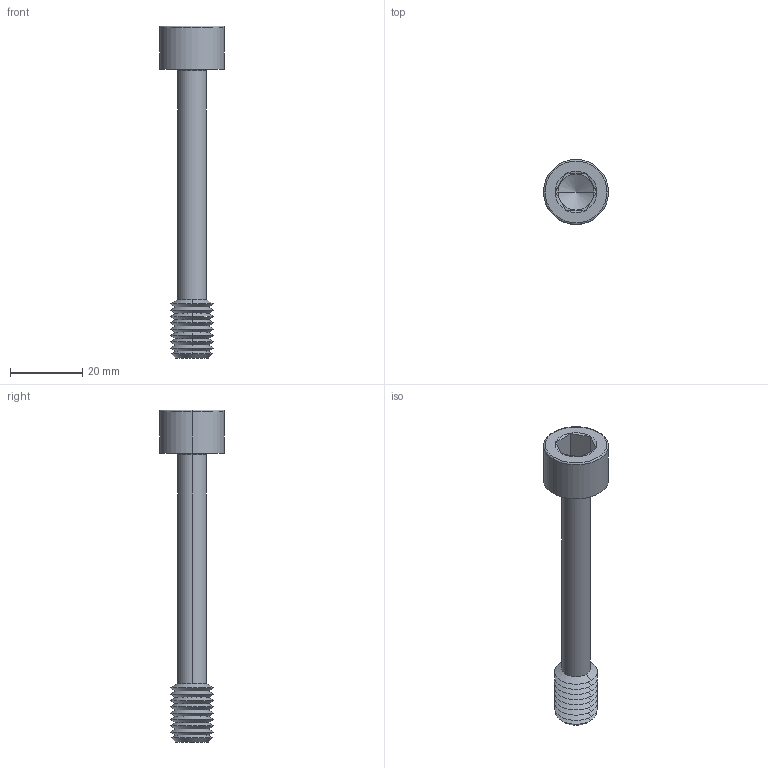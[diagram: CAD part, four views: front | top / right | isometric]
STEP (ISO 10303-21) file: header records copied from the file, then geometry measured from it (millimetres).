
FILE_DESCRIPTION (( 'STEP AP203' ), '1' );
FILE_NAME ('P0154.120-080-BL.step', '2024-06-17T11:37:28', ( '' ), ( '' ), 'SwSTEP 2.0', 'SolidWorks 2019', '' );
FILE_SCHEMA (( 'CONFIG_CONTROL_DESIGN' ));
Length unit declared in the file: millimetre
Products named in the file (1): P0154.120-080-BL
Bounding box: 18 x 18 x 92 mm (x, y, z)
Volume: 6704.3 mm3; surface area: 4179.3 mm2
Topology: 1 solids, 1 shells, 67 faces, 136 edges, 71 vertices
Faces by surface type: cone 44, plane 15, torus 4, cylinder 4
Entity records: 1791 total; most frequent: DIRECTION 332, CARTESIAN_POINT 303, ORIENTED_EDGE 268, AXIS2_PLACEMENT_3D 136, EDGE_CURVE 134, VERTEX_POINT 71, EDGE_LOOP 69, CIRCLE 68
